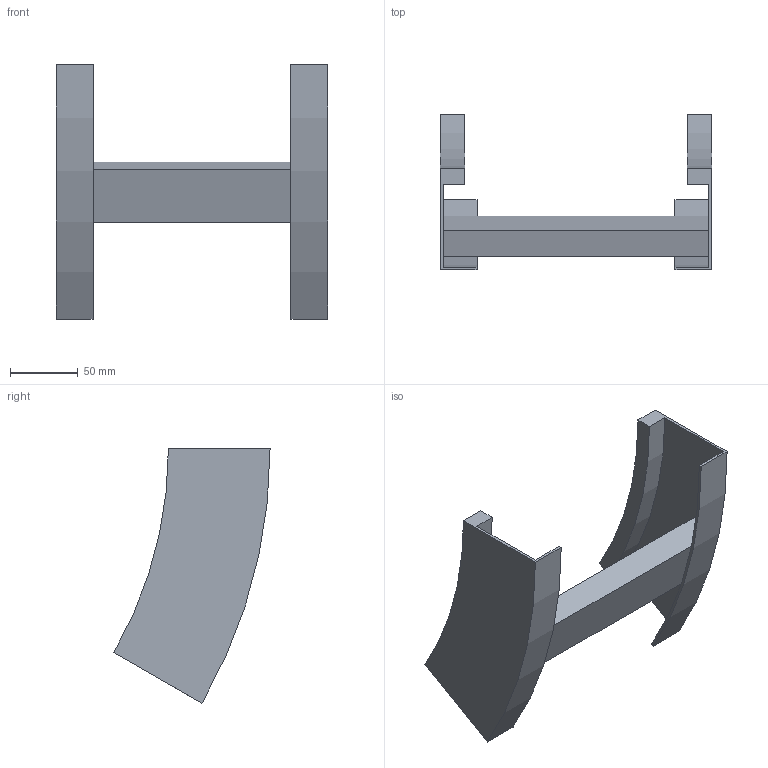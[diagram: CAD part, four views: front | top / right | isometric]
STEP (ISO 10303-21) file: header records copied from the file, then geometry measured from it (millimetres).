
FILE_DESCRIPTION (( 'STEP AP214' ), '1' );
FILE_NAME ('B2X32B3C200XX.step', '2025-03-20T10:02:42', ( '' ), ( '' ), 'SwSTEP 2.0', 'SolidWorks 2023', '' );
FILE_SCHEMA (( 'AUTOMOTIVE_DESIGN' ));
Length unit declared in the file: millimetre
Products named in the file (3): TRAVERSINO_200; B2X32B3C200XX; B2_LONGH.SALITA_30°_H75_R300
Assembly tree (3 placements, depth 2):
  B2X32B3C200XX
    B2_LONGH.SALITA_30°_H75_R300  x2
    TRAVERSINO_200
Bounding box: 200 x 115.19 x 187.5 mm (x, y, z)
Volume: 292881.9 mm3; surface area: 111168.8 mm2
Topology: 3 solids, 3 shells, 26 faces, 60 edges, 40 vertices
Faces by surface type: plane 18, cylinder 8
Entity records: 544 total; most frequent: DIRECTION 88, CARTESIAN_POINT 82, ORIENTED_EDGE 72, EDGE_CURVE 36, AXIS2_PLACEMENT_3D 30, LINE 28, VECTOR 28, VERTEX_POINT 24
